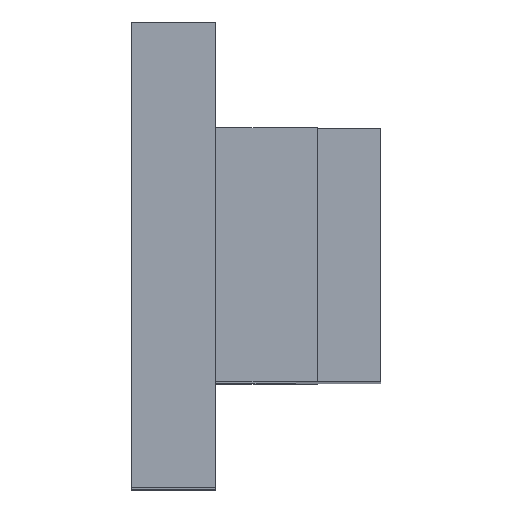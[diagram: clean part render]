
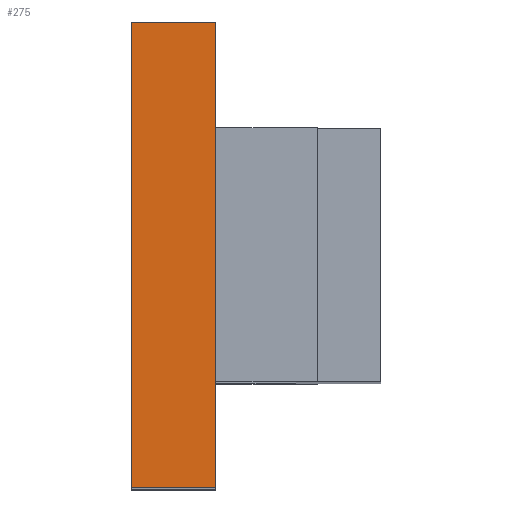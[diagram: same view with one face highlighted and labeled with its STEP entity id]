
A CAD part, top view. The second image highlights one B-rep face of the part: STEP entity #275.
In plain terms, the highlighted planar face has unit normal (0, 0, 1).
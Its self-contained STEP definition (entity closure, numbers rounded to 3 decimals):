
#24 = VERTEX_POINT('',#25);
#25 = CARTESIAN_POINT('',(120.2,2.,80.));
#32 = PLANE('',#33);
#33 = AXIS2_PLACEMENT_3D('',#34,#35,#36);
#34 = CARTESIAN_POINT('',(120.2,2.,68.));
#35 = DIRECTION('',(1.,0.,-0.));
#36 = DIRECTION('',(0.,0.,1.));
#44 = PLANE('',#45);
#45 = AXIS2_PLACEMENT_3D('',#46,#47,#48);
#46 = CARTESIAN_POINT('',(120.2,2.,68.));
#47 = DIRECTION('',(-0.,1.,0.));
#48 = DIRECTION('',(0.,0.,1.));
#85 = VERTEX_POINT('',#86);
#86 = CARTESIAN_POINT('',(120.2,24.,80.));
#100 = PLANE('',#101);
#101 = AXIS2_PLACEMENT_3D('',#102,#103,#104);
#102 = CARTESIAN_POINT('',(120.2,24.,68.));
#103 = DIRECTION('',(-0.,1.,0.));
#104 = DIRECTION('',(0.,0.,1.));
#112 = EDGE_CURVE('',#24,#85,#113,.T.);
#113 = SURFACE_CURVE('',#114,(#118,#125),.PCURVE_S1.);
#114 = LINE('',#115,#116);
#115 = CARTESIAN_POINT('',(120.2,2.,80.));
#116 = VECTOR('',#117,1.);
#117 = DIRECTION('',(-0.,1.,0.));
#118 = PCURVE('',#32,#119);
#119 = DEFINITIONAL_REPRESENTATION('',(#120),#124);
#120 = LINE('',#121,#122);
#121 = CARTESIAN_POINT('',(12.,0.));
#122 = VECTOR('',#123,1.);
#123 = DIRECTION('',(0.,-1.));
#124 = ( GEOMETRIC_REPRESENTATION_CONTEXT(2) 
PARAMETRIC_REPRESENTATION_CONTEXT() REPRESENTATION_CONTEXT('2D SPACE',''
  ) );
#125 = PCURVE('',#126,#131);
#126 = PLANE('',#127);
#127 = AXIS2_PLACEMENT_3D('',#128,#129,#130);
#128 = CARTESIAN_POINT('',(120.2,2.,80.));
#129 = DIRECTION('',(0.,0.,1.));
#130 = DIRECTION('',(1.,0.,-0.));
#131 = DEFINITIONAL_REPRESENTATION('',(#132),#136);
#132 = LINE('',#133,#134);
#133 = CARTESIAN_POINT('',(0.,0.));
#134 = VECTOR('',#135,1.);
#135 = DIRECTION('',(0.,1.));
#136 = ( GEOMETRIC_REPRESENTATION_CONTEXT(2) 
PARAMETRIC_REPRESENTATION_CONTEXT() REPRESENTATION_CONTEXT('2D SPACE',''
  ) );
#227 = EDGE_CURVE('',#24,#228,#230,.T.);
#228 = VERTEX_POINT('',#229);
#229 = CARTESIAN_POINT('',(124.2,2.,80.));
#230 = SURFACE_CURVE('',#231,(#235,#242),.PCURVE_S1.);
#231 = LINE('',#232,#233);
#232 = CARTESIAN_POINT('',(120.2,2.,80.));
#233 = VECTOR('',#234,1.);
#234 = DIRECTION('',(1.,0.,-0.));
#235 = PCURVE('',#44,#236);
#236 = DEFINITIONAL_REPRESENTATION('',(#237),#241);
#237 = LINE('',#238,#239);
#238 = CARTESIAN_POINT('',(12.,0.));
#239 = VECTOR('',#240,1.);
#240 = DIRECTION('',(0.,1.));
#241 = ( GEOMETRIC_REPRESENTATION_CONTEXT(2) 
PARAMETRIC_REPRESENTATION_CONTEXT() REPRESENTATION_CONTEXT('2D SPACE',''
  ) );
#242 = PCURVE('',#126,#243);
#243 = DEFINITIONAL_REPRESENTATION('',(#244),#248);
#244 = LINE('',#245,#246);
#245 = CARTESIAN_POINT('',(0.,0.));
#246 = VECTOR('',#247,1.);
#247 = DIRECTION('',(1.,0.));
#248 = ( GEOMETRIC_REPRESENTATION_CONTEXT(2) 
PARAMETRIC_REPRESENTATION_CONTEXT() REPRESENTATION_CONTEXT('2D SPACE',''
  ) );
#264 = PLANE('',#265);
#265 = AXIS2_PLACEMENT_3D('',#266,#267,#268);
#266 = CARTESIAN_POINT('',(124.2,2.,68.));
#267 = DIRECTION('',(1.,0.,-0.));
#268 = DIRECTION('',(0.,0.,1.));
#275 = ADVANCED_FACE('',(#276),#126,.T.);
#276 = FACE_BOUND('',#277,.T.);
#277 = EDGE_LOOP('',(#278,#279,#280,#303));
#278 = ORIENTED_EDGE('',*,*,#112,.F.);
#279 = ORIENTED_EDGE('',*,*,#227,.T.);
#280 = ORIENTED_EDGE('',*,*,#281,.T.);
#281 = EDGE_CURVE('',#228,#282,#284,.T.);
#282 = VERTEX_POINT('',#283);
#283 = CARTESIAN_POINT('',(124.2,24.,80.));
#284 = SURFACE_CURVE('',#285,(#289,#296),.PCURVE_S1.);
#285 = LINE('',#286,#287);
#286 = CARTESIAN_POINT('',(124.2,2.,80.));
#287 = VECTOR('',#288,1.);
#288 = DIRECTION('',(-0.,1.,0.));
#289 = PCURVE('',#126,#290);
#290 = DEFINITIONAL_REPRESENTATION('',(#291),#295);
#291 = LINE('',#292,#293);
#292 = CARTESIAN_POINT('',(4.,0.));
#293 = VECTOR('',#294,1.);
#294 = DIRECTION('',(0.,1.));
#295 = ( GEOMETRIC_REPRESENTATION_CONTEXT(2) 
PARAMETRIC_REPRESENTATION_CONTEXT() REPRESENTATION_CONTEXT('2D SPACE',''
  ) );
#296 = PCURVE('',#264,#297);
#297 = DEFINITIONAL_REPRESENTATION('',(#298),#302);
#298 = LINE('',#299,#300);
#299 = CARTESIAN_POINT('',(12.,0.));
#300 = VECTOR('',#301,1.);
#301 = DIRECTION('',(0.,-1.));
#302 = ( GEOMETRIC_REPRESENTATION_CONTEXT(2) 
PARAMETRIC_REPRESENTATION_CONTEXT() REPRESENTATION_CONTEXT('2D SPACE',''
  ) );
#303 = ORIENTED_EDGE('',*,*,#304,.F.);
#304 = EDGE_CURVE('',#85,#282,#305,.T.);
#305 = SURFACE_CURVE('',#306,(#310,#317),.PCURVE_S1.);
#306 = LINE('',#307,#308);
#307 = CARTESIAN_POINT('',(120.2,24.,80.));
#308 = VECTOR('',#309,1.);
#309 = DIRECTION('',(1.,0.,-0.));
#310 = PCURVE('',#126,#311);
#311 = DEFINITIONAL_REPRESENTATION('',(#312),#316);
#312 = LINE('',#313,#314);
#313 = CARTESIAN_POINT('',(0.,22.));
#314 = VECTOR('',#315,1.);
#315 = DIRECTION('',(1.,0.));
#316 = ( GEOMETRIC_REPRESENTATION_CONTEXT(2) 
PARAMETRIC_REPRESENTATION_CONTEXT() REPRESENTATION_CONTEXT('2D SPACE',''
  ) );
#317 = PCURVE('',#100,#318);
#318 = DEFINITIONAL_REPRESENTATION('',(#319),#323);
#319 = LINE('',#320,#321);
#320 = CARTESIAN_POINT('',(12.,0.));
#321 = VECTOR('',#322,1.);
#322 = DIRECTION('',(0.,1.));
#323 = ( GEOMETRIC_REPRESENTATION_CONTEXT(2) 
PARAMETRIC_REPRESENTATION_CONTEXT() REPRESENTATION_CONTEXT('2D SPACE',''
  ) );
